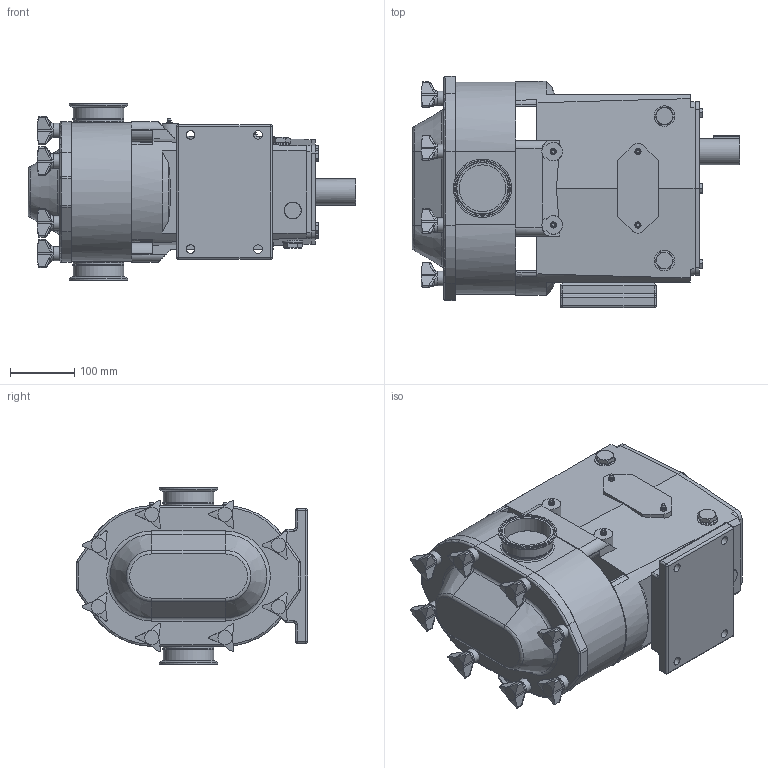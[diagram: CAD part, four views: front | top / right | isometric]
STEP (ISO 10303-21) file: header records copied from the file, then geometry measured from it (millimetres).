
FILE_DESCRIPTION(/* description */ (''),/* implementation_level */ '2;1');
FILE_NAME(/* name */ 'u1 130 upper shaft.stp',/* time_stamp */ '2024-10-02T16:30:26-05:00',/* author */ ('HWNME6'),/* organization */ (''),/* preprocessor_version */ 'ST-DEVELOPER v19.2',/* originating_system */ 'Autodesk Inventor 2023',/* authorisation */ '');
FILE_SCHEMA (('CONFIG_CONTROL_DESIGN'));
Products named in the file (1): 130u1 upper lower_Simplify_1
Bounding box: 510.26 x 360.3 x 274.17 mm (x, y, z)
Volume: 21928529.1 mm3; surface area: 730405.8 mm2
Topology: 1 solids, 1 shells, 1232 faces, 3135 edges, 1916 vertices
Faces by surface type: plane 631, bspline 272, cylinder 164, cone 107, torus 50, sphere 8
Full cylindrical faces by diameter (mm): 9.525 x4, 13.495 x4, 22.352 x8, 25.5 x4, 31.75 x4, 33.274 x2, 35.052 x2, 41.275 x1, 72.898 x2, 78.461 x4, 79.477 x2, 90.907 x2
Entity records: 45781 total; most frequent: CARTESIAN_POINT 18762, ORIENTED_EDGE 6110, DIRECTION 4814, EDGE_CURVE 3055, VERTEX_POINT 1916, LINE 1662, VECTOR 1662, AXIS2_PLACEMENT_3D 1576
